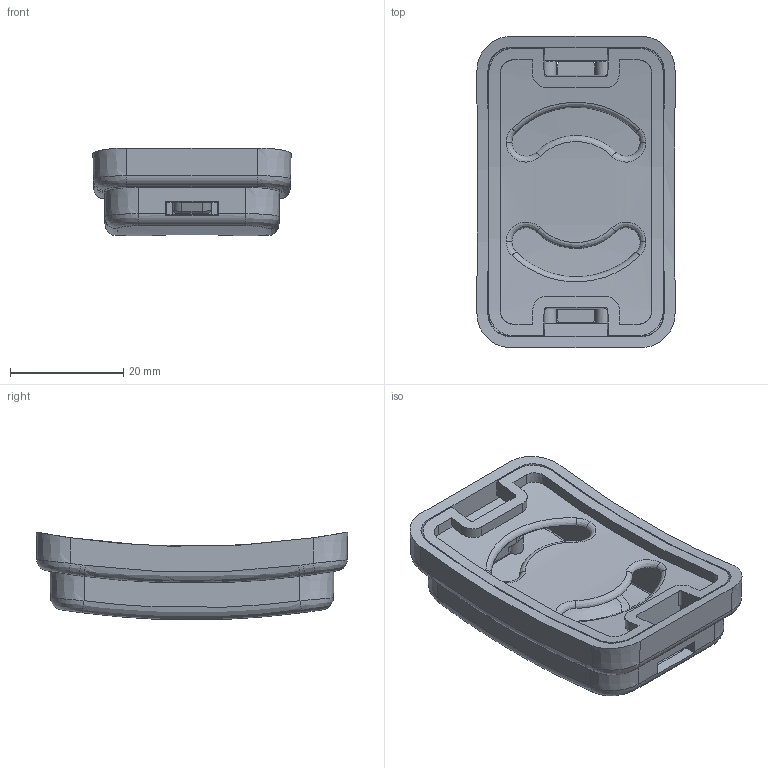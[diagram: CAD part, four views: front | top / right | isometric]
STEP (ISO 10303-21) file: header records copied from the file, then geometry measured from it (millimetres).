
FILE_DESCRIPTION(/* description */ (''),/* implementation_level */ '2;1');
FILE_NAME(/* name */ 'CP09.stp',/* time_stamp */ '2019-05-02T02:02:56+08:00',/* author */ (''),/* organization */ (''),/* preprocessor_version */ 'ST-DEVELOPER v16',/* originating_system */ 'SIEMENS PLM Software NX 10.0',/* authorisation */ '');
FILE_SCHEMA (('AUTOMOTIVE_DESIGN { 1 0 10303 214 3 1 1 1 }'));
Length unit declared in the file: millimetre
Products named in the file (3): CP09_id6_x_t; CP09_id10_x_t; CP09_x_t
Assembly tree (2 placements, depth 2):
  CP09_x_t
    CP09_id10_x_t
    CP09_id6_x_t
Bounding box: 35.05 x 55.08 x 15.55 mm (x, y, z)
Volume: 9162.4 mm3; surface area: 11042.6 mm2
Topology: 2 solids, 2 shells, 224 faces, 595 edges, 370 vertices
Faces by surface type: plane 78, cylinder 62, bspline 51, cone 24, sphere 9
Entity records: 9062 total; most frequent: CARTESIAN_POINT 3880, ORIENTED_EDGE 1146, DIRECTION 975, EDGE_CURVE 573, VERTEX_POINT 358, AXIS2_PLACEMENT_3D 358, LINE 259, VECTOR 259
